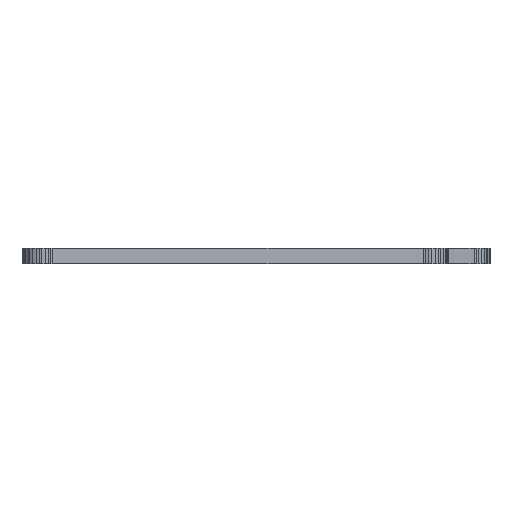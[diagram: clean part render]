
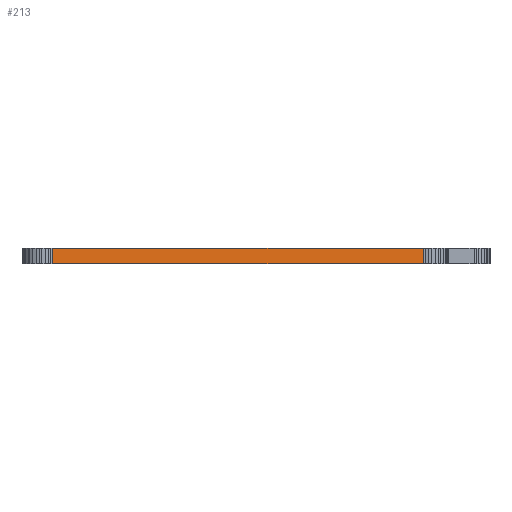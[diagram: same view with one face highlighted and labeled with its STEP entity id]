
A CAD part, left-side view. The second image highlights one B-rep face of the part: STEP entity #213.
In plain terms, the highlighted planar face has unit normal (-0.991, -0.136, 0).
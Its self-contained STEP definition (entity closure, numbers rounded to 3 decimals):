
#32 = PLANE('',#33);
#33 = AXIS2_PLACEMENT_3D('',#34,#35,#36);
#34 = CARTESIAN_POINT('',(-64.706,77.401,6.));
#35 = DIRECTION('',(-0.965,-0.261,0.)
  );
#36 = DIRECTION('',(0.261,-0.965,0.));
#57 = VERTEX_POINT('',#58);
#58 = CARTESIAN_POINT('',(-64.505,76.66,
    0.));
#72 = PLANE('',#73);
#73 = AXIS2_PLACEMENT_3D('',#74,#75,#76);
#74 = CARTESIAN_POINT('',(0.,9.676,
    0.));
#75 = DIRECTION('',(-0.,0.,1.));
#76 = DIRECTION('',(-1.,-0.,0.));
#84 = EDGE_CURVE('',#85,#57,#87,.T.);
#85 = VERTEX_POINT('',#86);
#86 = CARTESIAN_POINT('',(-64.505,76.66,6.));
#87 = SURFACE_CURVE('',#88,(#92,#99),.PCURVE_S1.);
#88 = LINE('',#89,#90);
#89 = CARTESIAN_POINT('',(-64.505,76.66,6.));
#90 = VECTOR('',#91,1.);
#91 = DIRECTION('',(0.,0.,-1.));
#92 = PCURVE('',#32,#93);
#93 = DEFINITIONAL_REPRESENTATION('',(#94),#98);
#94 = LINE('',#95,#96);
#95 = CARTESIAN_POINT('',(0.768,0.));
#96 = VECTOR('',#97,1.);
#97 = DIRECTION('',(0.,-1.));
#98 = ( GEOMETRIC_REPRESENTATION_CONTEXT(2) 
PARAMETRIC_REPRESENTATION_CONTEXT() REPRESENTATION_CONTEXT('2D SPACE',''
  ) );
#99 = PCURVE('',#100,#105);
#100 = PLANE('',#101);
#101 = AXIS2_PLACEMENT_3D('',#102,#103,#104);
#102 = CARTESIAN_POINT('',(-64.505,76.66,6.));
#103 = DIRECTION('',(-0.991,-0.136,0.)
  );
#104 = DIRECTION('',(0.136,-0.991,0.)
  );
#105 = DEFINITIONAL_REPRESENTATION('',(#106),#110);
#106 = LINE('',#107,#108);
#107 = CARTESIAN_POINT('',(0.,0.));
#108 = VECTOR('',#109,1.);
#109 = DIRECTION('',(0.,-1.));
#110 = ( GEOMETRIC_REPRESENTATION_CONTEXT(2) 
PARAMETRIC_REPRESENTATION_CONTEXT() REPRESENTATION_CONTEXT('2D SPACE',''
  ) );
#126 = PLANE('',#127);
#127 = AXIS2_PLACEMENT_3D('',#128,#129,#130);
#128 = CARTESIAN_POINT('',(0.,9.676,6.));
#129 = DIRECTION('',(-0.,0.,1.));
#130 = DIRECTION('',(-1.,-0.,0.));
#213 = ADVANCED_FACE('',(#214),#100,.T.);
#214 = FACE_BOUND('',#215,.T.);
#215 = EDGE_LOOP('',(#216,#217,#240,#268));
#216 = ORIENTED_EDGE('',*,*,#84,.T.);
#217 = ORIENTED_EDGE('',*,*,#218,.T.);
#218 = EDGE_CURVE('',#57,#219,#221,.T.);
#219 = VERTEX_POINT('',#220);
#220 = CARTESIAN_POINT('',(-45.366,-63.055,
    0.));
#221 = SURFACE_CURVE('',#222,(#226,#233),.PCURVE_S1.);
#222 = LINE('',#223,#224);
#223 = CARTESIAN_POINT('',(-64.505,76.66,
    0.));
#224 = VECTOR('',#225,1.);
#225 = DIRECTION('',(0.136,-0.991,0.)
  );
#226 = PCURVE('',#100,#227);
#227 = DEFINITIONAL_REPRESENTATION('',(#228),#232);
#228 = LINE('',#229,#230);
#229 = CARTESIAN_POINT('',(0.,-6.));
#230 = VECTOR('',#231,1.);
#231 = DIRECTION('',(1.,0.));
#232 = ( GEOMETRIC_REPRESENTATION_CONTEXT(2) 
PARAMETRIC_REPRESENTATION_CONTEXT() REPRESENTATION_CONTEXT('2D SPACE',''
  ) );
#233 = PCURVE('',#72,#234);
#234 = DEFINITIONAL_REPRESENTATION('',(#235),#239);
#235 = LINE('',#236,#237);
#236 = CARTESIAN_POINT('',(64.505,-66.984));
#237 = VECTOR('',#238,1.);
#238 = DIRECTION('',(-0.136,0.991));
#239 = ( GEOMETRIC_REPRESENTATION_CONTEXT(2) 
PARAMETRIC_REPRESENTATION_CONTEXT() REPRESENTATION_CONTEXT('2D SPACE',''
  ) );
#240 = ORIENTED_EDGE('',*,*,#241,.F.);
#241 = EDGE_CURVE('',#242,#219,#244,.T.);
#242 = VERTEX_POINT('',#243);
#243 = CARTESIAN_POINT('',(-45.366,-63.055,6.));
#244 = SURFACE_CURVE('',#245,(#249,#256),.PCURVE_S1.);
#245 = LINE('',#246,#247);
#246 = CARTESIAN_POINT('',(-45.366,-63.055,6.));
#247 = VECTOR('',#248,1.);
#248 = DIRECTION('',(0.,0.,-1.));
#249 = PCURVE('',#100,#250);
#250 = DEFINITIONAL_REPRESENTATION('',(#251),#255);
#251 = LINE('',#252,#253);
#252 = CARTESIAN_POINT('',(141.02,0.));
#253 = VECTOR('',#254,1.);
#254 = DIRECTION('',(0.,-1.));
#255 = ( GEOMETRIC_REPRESENTATION_CONTEXT(2) 
PARAMETRIC_REPRESENTATION_CONTEXT() REPRESENTATION_CONTEXT('2D SPACE',''
  ) );
#256 = PCURVE('',#257,#262);
#257 = PLANE('',#258);
#258 = AXIS2_PLACEMENT_3D('',#259,#260,#261);
#259 = CARTESIAN_POINT('',(-45.366,-63.055,6.));
#260 = DIRECTION('',(-1.,0.01,
    0.));
#261 = DIRECTION('',(-0.01,-1.,
    0.));
#262 = DEFINITIONAL_REPRESENTATION('',(#263),#267);
#263 = LINE('',#264,#265);
#264 = CARTESIAN_POINT('',(0.,0.));
#265 = VECTOR('',#266,1.);
#266 = DIRECTION('',(0.,-1.));
#267 = ( GEOMETRIC_REPRESENTATION_CONTEXT(2) 
PARAMETRIC_REPRESENTATION_CONTEXT() REPRESENTATION_CONTEXT('2D SPACE',''
  ) );
#268 = ORIENTED_EDGE('',*,*,#269,.F.);
#269 = EDGE_CURVE('',#85,#242,#270,.T.);
#270 = SURFACE_CURVE('',#271,(#275,#282),.PCURVE_S1.);
#271 = LINE('',#272,#273);
#272 = CARTESIAN_POINT('',(-64.505,76.66,6.));
#273 = VECTOR('',#274,1.);
#274 = DIRECTION('',(0.136,-0.991,0.)
  );
#275 = PCURVE('',#100,#276);
#276 = DEFINITIONAL_REPRESENTATION('',(#277),#281);
#277 = LINE('',#278,#279);
#278 = CARTESIAN_POINT('',(0.,0.));
#279 = VECTOR('',#280,1.);
#280 = DIRECTION('',(1.,0.));
#281 = ( GEOMETRIC_REPRESENTATION_CONTEXT(2) 
PARAMETRIC_REPRESENTATION_CONTEXT() REPRESENTATION_CONTEXT('2D SPACE',''
  ) );
#282 = PCURVE('',#126,#283);
#283 = DEFINITIONAL_REPRESENTATION('',(#284),#288);
#284 = LINE('',#285,#286);
#285 = CARTESIAN_POINT('',(64.505,-66.984));
#286 = VECTOR('',#287,1.);
#287 = DIRECTION('',(-0.136,0.991));
#288 = ( GEOMETRIC_REPRESENTATION_CONTEXT(2) 
PARAMETRIC_REPRESENTATION_CONTEXT() REPRESENTATION_CONTEXT('2D SPACE',''
  ) );
